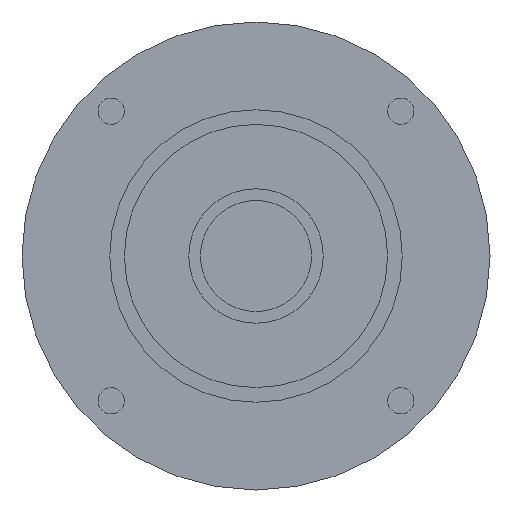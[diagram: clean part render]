
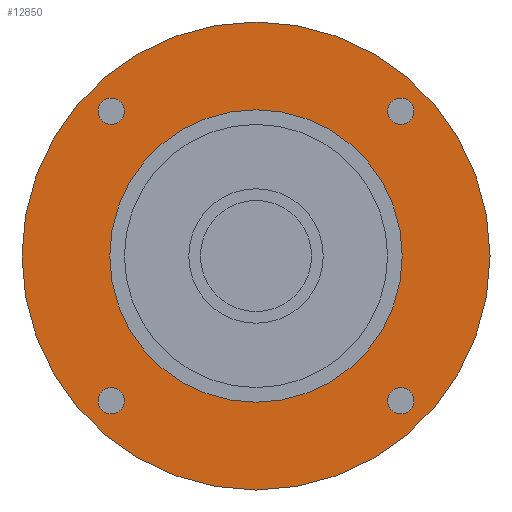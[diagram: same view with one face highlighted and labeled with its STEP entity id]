
A CAD part, left-side view. The second image highlights one B-rep face of the part: STEP entity #12850.
In plain terms, the highlighted planar face has unit normal (-1, 0, 0) as drawn and (0, 0, -1) by its records, which use the part's own axes.
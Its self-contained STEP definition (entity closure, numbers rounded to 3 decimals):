
#11670=CARTESIAN_POINT('',(-40.,0.,-47.2));
#11680=VERTEX_POINT('',#11670);
#11770=CARTESIAN_POINT('',(40.,0.,-47.2));
#11780=VERTEX_POINT('',#11770);
#11810=CARTESIAN_POINT('',(0.,0.,
-47.2));
#11820=DIRECTION('',(0.,0.,1.));
#11830=DIRECTION('',(1.,0.,0.));
#11840=AXIS2_PLACEMENT_3D('',#11810,#11820,#11830);
#11850=CIRCLE('',#11840,40.);
#11860=CARTESIAN_POINT('',(0.,-40.,-47.2));
#11870=VERTEX_POINT('',#11860);
#11880=EDGE_CURVE('',#11870,#11780,#11850,.T.);
#11900=EDGE_CURVE('',#11680,#11870,#11850,.T.);
#11950=CARTESIAN_POINT('',(0.,0.,
-47.2));
#11960=DIRECTION('',(0.,0.,-1.));
#11970=DIRECTION('',(1.,0.,0.));
#11980=AXIS2_PLACEMENT_3D('',#11950,#11960,#11970);
#11990=PLANE('',#11980);
#12000=CARTESIAN_POINT('',(24.749,-24.749,-47.2));
#12010=DIRECTION('',(0.,0.,-1.));
#12020=DIRECTION('',(1.,0.,0.));
#12030=AXIS2_PLACEMENT_3D('',#12000,#12010,#12020);
#12040=CIRCLE('',#12030,2.25);
#12050=CARTESIAN_POINT('',(26.999,-24.749,-47.2));
#12060=VERTEX_POINT('',#12050);
#12070=CARTESIAN_POINT('',(22.499,-24.749,-47.2));
#12080=VERTEX_POINT('',#12070);
#12090=EDGE_CURVE('',#12060,#12080,#12040,.T.);
#12100=ORIENTED_EDGE('',*,*,#12090,.F.);
#12110=EDGE_CURVE('',#12080,#12060,#12040,.T.);
#12120=ORIENTED_EDGE('',*,*,#12110,.F.);
#12130=EDGE_LOOP('',(#12120,#12100));
#12140=FACE_BOUND('',#12130,.T.);
#12150=ORIENTED_EDGE('',*,*,#11880,.F.);
#12160=EDGE_CURVE('',#11780,#11680,#11850,.T.);
#12170=ORIENTED_EDGE('',*,*,#12160,.F.);
#12180=ORIENTED_EDGE('',*,*,#11900,.F.);
#12190=EDGE_LOOP('',(#12180,#12170,#12150));
#12200=FACE_OUTER_BOUND('',#12190,.T.);
#12210=CARTESIAN_POINT('',(24.749,24.749,-47.2));
#12220=DIRECTION('',(0.,0.,-1.));
#12230=DIRECTION('',(0.,1.,0.));
#12240=AXIS2_PLACEMENT_3D('',#12210,#12220,#12230);
#12250=CIRCLE('',#12240,2.25);
#12260=CARTESIAN_POINT('',(24.749,26.999,-47.2));
#12270=VERTEX_POINT('',#12260);
#12280=CARTESIAN_POINT('',(24.749,22.499,-47.2));
#12290=VERTEX_POINT('',#12280);
#12300=EDGE_CURVE('',#12270,#12290,#12250,.T.);
#12310=ORIENTED_EDGE('',*,*,#12300,.F.);
#12320=EDGE_CURVE('',#12290,#12270,#12250,.T.);
#12330=ORIENTED_EDGE('',*,*,#12320,.F.);
#12340=EDGE_LOOP('',(#12330,#12310));
#12350=FACE_BOUND('',#12340,.T.);
#12360=CARTESIAN_POINT('',(-24.749,24.749,-47.2));
#12370=DIRECTION('',(0.,0.,-1.));
#12380=DIRECTION('',(-1.,0.,0.));
#12390=AXIS2_PLACEMENT_3D('',#12360,#12370,#12380);
#12400=CIRCLE('',#12390,2.25);
#12410=CARTESIAN_POINT('',(-26.999,24.749,-47.2));
#12420=VERTEX_POINT('',#12410);
#12430=CARTESIAN_POINT('',(-22.499,24.749,-47.2));
#12440=VERTEX_POINT('',#12430);
#12450=EDGE_CURVE('',#12420,#12440,#12400,.T.);
#12460=ORIENTED_EDGE('',*,*,#12450,.F.);
#12470=EDGE_CURVE('',#12440,#12420,#12400,.T.);
#12480=ORIENTED_EDGE('',*,*,#12470,.F.);
#12490=EDGE_LOOP('',(#12480,#12460));
#12500=FACE_BOUND('',#12490,.T.);
#12510=CARTESIAN_POINT('',(-24.749,-24.749,-47.2));
#12520=DIRECTION('',(0.,0.,-1.));
#12530=DIRECTION('',(0.,-1.,0.));
#12540=AXIS2_PLACEMENT_3D('',#12510,#12520,#12530);
#12550=CIRCLE('',#12540,2.25);
#12560=CARTESIAN_POINT('',(-24.749,-26.999,-47.2));
#12570=VERTEX_POINT('',#12560);
#12580=CARTESIAN_POINT('',(-24.749,-22.499,-47.2));
#12590=VERTEX_POINT('',#12580);
#12600=EDGE_CURVE('',#12570,#12590,#12550,.T.);
#12610=ORIENTED_EDGE('',*,*,#12600,.F.);
#12620=EDGE_CURVE('',#12590,#12570,#12550,.T.);
#12630=ORIENTED_EDGE('',*,*,#12620,.F.);
#12640=EDGE_LOOP('',(#12630,#12610));
#12650=FACE_BOUND('',#12640,.T.);
#12660=CARTESIAN_POINT('',(0.,0.,
-47.2));
#12670=DIRECTION('',(0.,0.,1.));
#12680=DIRECTION('',(0.,1.,0.));
#12690=AXIS2_PLACEMENT_3D('',#12660,#12670,#12680);
#12700=CIRCLE('',#12690,25.);
#12710=CARTESIAN_POINT('',(-25.,0.,-47.2));
#12720=VERTEX_POINT('',#12710);
#12730=CARTESIAN_POINT('',(25.,0.,-47.2));
#12740=VERTEX_POINT('',#12730);
#12750=EDGE_CURVE('',#12720,#12740,#12700,.T.);
#12760=ORIENTED_EDGE('',*,*,#12750,.T.);
#12770=CARTESIAN_POINT('',(0.,25.,-47.2));
#12780=VERTEX_POINT('',#12770);
#12790=EDGE_CURVE('',#12780,#12720,#12700,.T.);
#12800=ORIENTED_EDGE('',*,*,#12790,.T.);
#12810=EDGE_CURVE('',#12740,#12780,#12700,.T.);
#12820=ORIENTED_EDGE('',*,*,#12810,.T.);
#12830=EDGE_LOOP('',(#12820,#12800,#12760));
#12840=FACE_BOUND('',#12830,.T.);
#12850=ADVANCED_FACE('',(#12140,#12200,#12350,#12500,#12650,#12840),
#11990,.T.);
